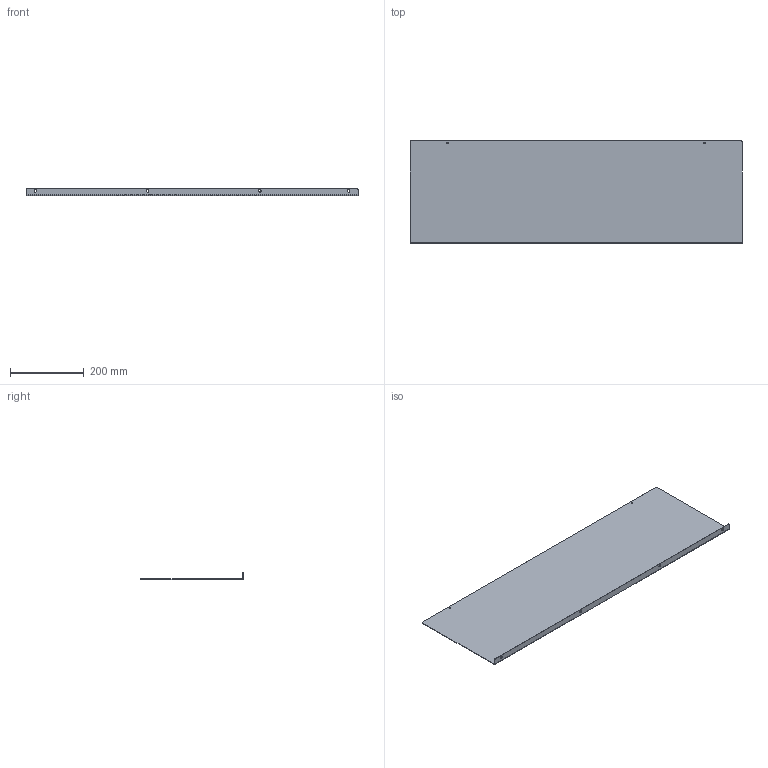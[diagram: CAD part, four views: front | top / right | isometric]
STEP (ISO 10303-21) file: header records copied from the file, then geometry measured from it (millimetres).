
FILE_DESCRIPTION((''),'2;1');
FILE_NAME('C:\Vault_Workspace\Inventor_Dwg\Inv-1\1100BA\WEBSITE\1100BA12036.stp','2015-02-02T15:17:44',('MichaelA'),(''),'Autodesk Inventor 2012','Autodesk Inventor 2012','');
FILE_SCHEMA(('AUTOMOTIVE_DESIGN { 1 0 10303 214 1 1 1 1 }'));
Length unit declared in the file: inch
Products named in the file (1): 1100BA-MASTER
Bounding box: 901.7 x 279.4 x 19.05 mm (x, y, z)
Volume: 373106.8 mm3; surface area: 537659 mm2
Topology: 1 solids, 1 shells, 24 faces, 58 edges, 36 vertices
Faces by surface type: cylinder 12, plane 12
Full cylindrical faces by diameter (mm): 4.496 x2, 7.137 x4
Entity records: 724 total; most frequent: DIRECTION 126, CARTESIAN_POINT 113, ORIENTED_EDGE 104, EDGE_CURVE 52, AXIS2_PLACEMENT_3D 49, EDGE_LOOP 42, VERTEX_POINT 36, VECTOR 28
